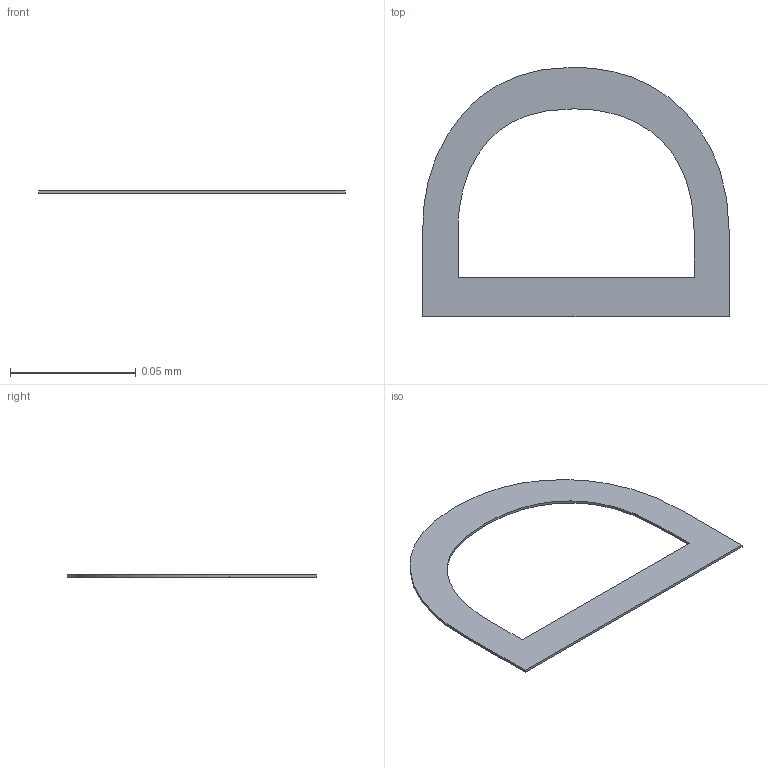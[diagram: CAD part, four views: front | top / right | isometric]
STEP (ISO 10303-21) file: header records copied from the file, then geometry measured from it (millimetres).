
FILE_DESCRIPTION(/* description */ ('STEP AP242 Edition 2','CAx-IF Rec.Pracs.---Representation and Presentation of Product Manufacturing Information (PMI)---4.0---2014-10-13','CAx-IF Rec.Pracs.---3D Tessellated Geometry---0.4---2014-09-14','2;1','CAx-IF Rec.Pracs.---User Defined Attributes---1.5---2016-08-15'),/* implementation_level */ '2;1');
FILE_NAME(/* name */ 'Assembly 1 - SOT-223-3_L6.5-W3.4-P2.30-LS7.0-BR~SOT-223-4P_L6.5-W3.5-H1.6-LS7.0-P2.30~nxQB (9)',/* time_stamp */ '2026-04-02T09:55:22Z',/* author */ (''),/* organization */ (''),/* preprocessor_version */ 'ST-DEVELOPER v20',/* originating_system */ 'ONSHAPE BY PTC INC, 1.212',/* authorisation */ ' ');
FILE_SCHEMA (('AP242_MANAGED_MODEL_BASED_3D_ENGINEERING_MIM_LF { 1 0 10303 442 3 1 4 }'));
Length unit declared in the file: metre
Products named in the file (1): SOT-223-3_L6.5-W3.4-P2.30-LS7.0-BR~SOT-223-4P_L6.5-W3.5-H1.6-LS7.0-P2.
30~nxQB
Bounding box: 0.12 x 0.1 x 0 mm (x, y, z)
Volume: 0 mm3; surface area: 0 mm2
Topology: 1 solids, 1 shells, 16 faces, 42 edges, 28 vertices
Faces by surface type: bspline 8, plane 8
Entity records: 673 total; most frequent: CARTESIAN_POINT 191, ORIENTED_EDGE 84, DIRECTION 44, EDGE_CURVE 42, VERTEX_POINT 28, LINE 26, VECTOR 26, EDGE_LOOP 18
